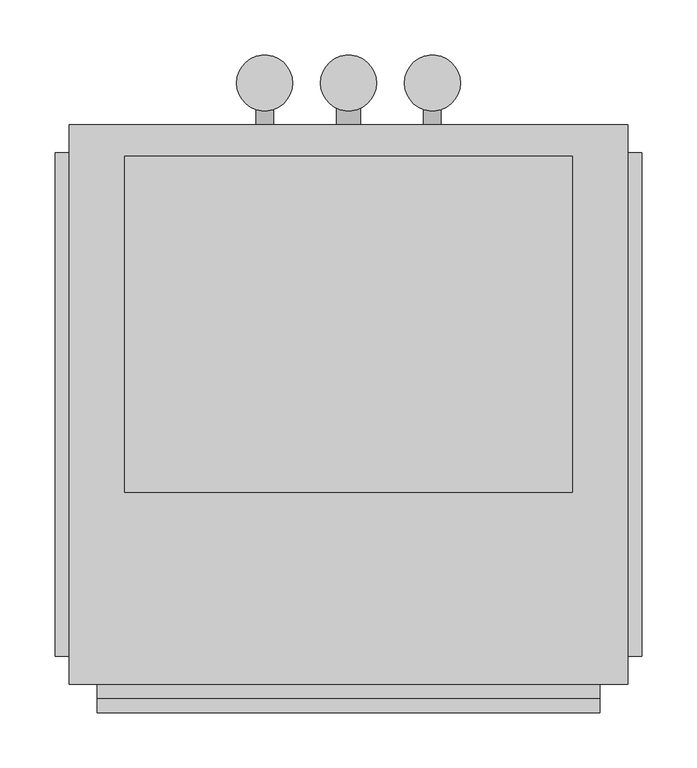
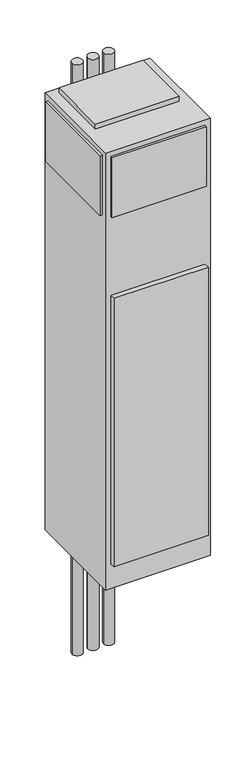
"""IFC4 building model written with IfcOpenShell, lengths in millimetres: proxy geometry, Concealed_Universal_Modular_Fan_Coil_Unit_-_42SUB_-_CARRIER_-_2-Pipe_Cool-EHeat_-_WithRisers_2022 : Size 06 - 277v/60Hz/1Ph - 4 Row 6.0kW."""

from ifc_helpers import new_model, si_unit, point, frame, frame_2d, origin, origin_with_axes, place, context, project, spatial, polyline, circle_curve, trimmed, segment, composite_curve, outline, extrude, source, transform, mapped, element, save


def mechanical_equipment_c784438e(model_context):
    return source(origin(), model_context, "Body", "SweptSolid", [
        extrude(outline(composite_curve([segment(trimmed(circle_curve(frame_2d((330.2, 282.575)), 25.4), [point((304.8, 282.575))], [point((355.6, 282.575))], False, "CARTESIAN"), True, "CONTINUOUS"), segment(trimmed(circle_curve(frame_2d((330.2, 282.575)), 25.4), [point((355.6, 282.575))], [point((304.8, 282.575))], False, "CARTESIAN"), True, "CONTINUOUS")], self_intersect=False)), frame((0.0, 0.0, -711.2), z_axis=(0.0, 0.0, 1.0), x_axis=(1.0, 0.0, 0.0)), (0.0, 0.0, 1.0), 3022.6),
        extrude(outline(composite_curve([segment(trimmed(circle_curve(frame_2d((406.4, 282.575)), 25.4), [point((381.0, 282.575))], [point((431.8, 282.575))], False, "CARTESIAN"), True, "CONTINUOUS"), segment(trimmed(circle_curve(frame_2d((406.4, 282.575)), 25.4), [point((431.8, 282.575))], [point((381.0, 282.575))], False, "CARTESIAN"), True, "CONTINUOUS")], self_intersect=False)), frame((0.0, 0.0, -711.2), z_axis=(0.0, 0.0, 1.0), x_axis=(1.0, 0.0, 0.0)), (0.0, 0.0, 1.0), 3022.6),
        extrude(outline(composite_curve([segment(trimmed(circle_curve(frame_2d((482.6, 282.575)), 25.4), [point((457.2, 282.575))], [point((508.0, 282.575))], False, "CARTESIAN"), True, "CONTINUOUS"), segment(trimmed(circle_curve(frame_2d((482.6, 282.575)), 25.4), [point((508.0, 282.575))], [point((457.2, 282.575))], False, "CARTESIAN"), True, "CONTINUOUS")], self_intersect=False)), frame((0.0, 0.0, -711.2), z_axis=(0.0, 0.0, 1.0), x_axis=(1.0, 0.0, 0.0)), (0.0, 0.0, 1.0), 3022.6),
        extrude(outline(composite_curve([segment(trimmed(circle_curve(frame_2d((990.6, 482.6)), 7.9375), [point((990.6, 474.6625))], [point((990.6, 490.5375))], False, "CARTESIAN"), True, "CONTINUOUS"), segment(trimmed(circle_curve(frame_2d((990.6, 482.6)), 7.9375), [point((990.6, 490.5375))], [point((990.6, 474.6625))], False, "CARTESIAN"), True, "CONTINUOUS")], self_intersect=False)), frame((0.0, 244.475, 0.0), z_axis=(0.0, 1.0, 0.0), x_axis=(0.0, 0.0, 1.0)), (0.0, 0.0, 1.0), 50.8),
        extrude(outline(composite_curve([segment(trimmed(circle_curve(frame_2d((990.6, 330.2)), 7.9375), [point((990.6, 322.2625))], [point((990.6, 338.1375))], False, "CARTESIAN"), True, "CONTINUOUS"), segment(trimmed(circle_curve(frame_2d((990.6, 330.2)), 7.9375), [point((990.6, 338.1375))], [point((990.6, 322.2625))], False, "CARTESIAN"), True, "CONTINUOUS")], self_intersect=False)), frame((0.0, 244.475, 0.0), z_axis=(0.0, 1.0, 0.0), x_axis=(0.0, 0.0, 1.0)), (0.0, 0.0, 1.0), 50.8),
        extrude(outline(composite_curve([segment(trimmed(circle_curve(frame_2d((76.2, 406.4)), 11.1125), [point((76.2, 395.2875))], [point((76.2, 417.5125))], False, "CARTESIAN"), True, "CONTINUOUS"), segment(trimmed(circle_curve(frame_2d((76.2, 406.4)), 11.1125), [point((76.2, 417.5125))], [point((76.2, 395.2875))], False, "CARTESIAN"), True, "CONTINUOUS")], self_intersect=False)), frame((0.0, 244.475, 0.0), z_axis=(0.0, 1.0, 0.0), x_axis=(0.0, 0.0, 1.0)), (0.0, 0.0, 1.0), 50.8),
        extrude(outline(polyline([(609.6, 215.9), (609.6, -88.9), (203.2, -88.9), (203.2, 215.9), (609.6, 215.9)])), frame((0.0, 0.0, 2235.2), z_axis=(0.0, 0.0, 1.0), x_axis=(1.0, 0.0, 0.0)), (0.0, 0.0, 1.0), 25.4),
        extrude(outline(polyline([(139.7, -238.125), (139.7, 219.075), (152.4, 219.075), (152.4, -238.125), (139.7, -238.125)])), frame((0.0, 0.0, 1905.0), z_axis=(0.0, 0.0, 1.0), x_axis=(1.0, 0.0, 0.0)), (0.0, 0.0, 1.0), 304.8),
        extrude(outline(polyline([(673.1, 219.075), (673.1, -238.125), (660.4, -238.125), (660.4, 219.075), (673.1, 219.075)])), frame((0.0, 0.0, 1905.0), z_axis=(0.0, 0.0, 1.0), x_axis=(1.0, 0.0, 0.0)), (0.0, 0.0, 1.0), 304.8),
        extrude(outline(polyline([(635.0, -276.225), (177.8, -276.225), (177.8, -263.525), (635.0, -263.525), (635.0, -276.225)])), frame((0.0, 0.0, 1905.0), z_axis=(0.0, 0.0, 1.0), x_axis=(1.0, 0.0, 0.0)), (0.0, 0.0, 1.0), 304.8),
        extrude(outline(polyline([(635.0, -288.925), (177.8, -288.925), (177.8, -263.525), (635.0, -263.525), (635.0, -288.925)])), frame((0.0, 0.0, 127.0), z_axis=(0.0, 0.0, 1.0), x_axis=(1.0, 0.0, 0.0)), (0.0, 0.0, 1.0), 1371.6),
        extrude(outline(polyline([(660.4, 244.475), (660.4, -263.525), (152.4, -263.525), (152.4, 244.475), (660.4, 244.475)])), origin_with_axes(), (0.0, 0.0, 1.0), 2235.2),
    ])


if __name__ == "__main__":
    model = new_model("IFC4")
    model_context = context("Model", 3, world=origin())
    ifc_project = project(units=[si_unit("LENGTHUNIT", "METRE", prefix="MILLI")], contexts=[model_context])
    site = spatial("IfcSite", under=ifc_project)
    building = spatial("IfcBuilding", under=site)
    placement = place(None, origin())
    mechanical_equipment_shape = mechanical_equipment_c784438e(model_context)
    element("IfcBuildingElementProxy", 1, Name="Concealed_Universal_Modular_Fan_Coil_Unit_-_42SUB_-_CARRIER_-_2-Pipe_Cool-EHeat_-_WithRisers_2022 : Size 06 - 277v/60Hz/1Ph - 4 Row 6.0kW", ObjectType="Concealed_Universal_Modular_Fan_Coil_Unit_-_42SUB_-_CARRIER_-_2-Pipe_Cool-EHeat_-_WithRisers_2022 : Size 06 - 277v/60Hz/1Ph - 4 Row 6.0kW", at=placement, inside=building, context=model_context, shape_type="MappedRepresentation", body=[
        mapped(mechanical_equipment_shape, transform((0.0, 0.0, 0.0), x_axis=(1.0, 0.0, 0.0), y_axis=(0.0, 1.0, 0.0), z_axis=(0.0, 0.0, 1.0))),
    ])
    save(model, "model.ifc")
